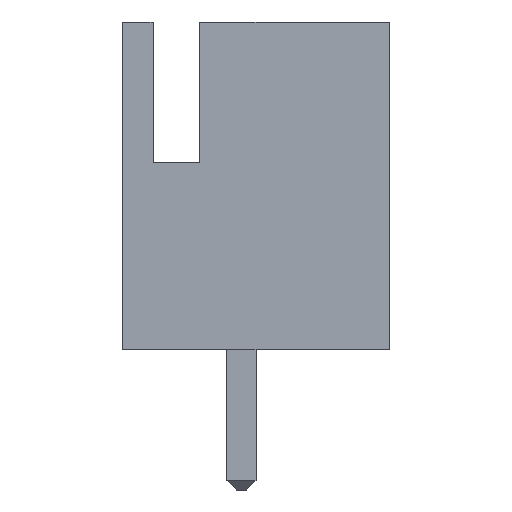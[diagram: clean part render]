
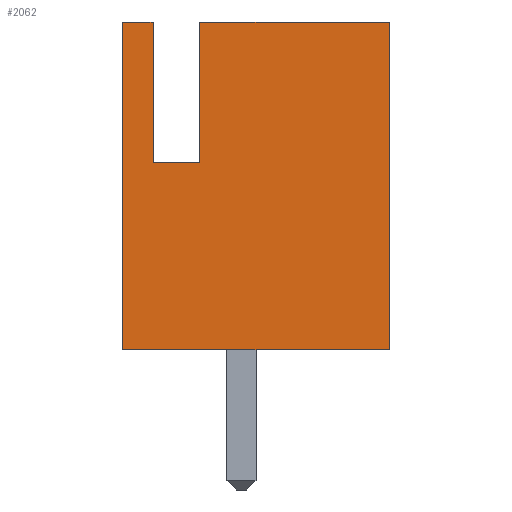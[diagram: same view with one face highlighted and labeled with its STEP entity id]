
A CAD part, left-side view. The second image highlights one B-rep face of the part: STEP entity #2062.
In plain terms, the highlighted planar face has unit normal (-1, 0, 0).
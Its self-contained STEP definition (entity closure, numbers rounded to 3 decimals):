
#124=FACE_OUTER_BOUND('',#241,.T.);
#241=EDGE_LOOP('',(#1563,#1564,#1565,#1566,#1567,#1568,#1569,#1570));
#408=LINE('',#2974,#690);
#419=LINE('',#2996,#701);
#437=LINE('',#3032,#719);
#444=LINE('',#3045,#726);
#445=LINE('',#3048,#727);
#446=LINE('',#3049,#728);
#447=LINE('',#3050,#729);
#448=LINE('',#3051,#730);
#690=VECTOR('',#2430,1.);
#701=VECTOR('',#2445,1.);
#719=VECTOR('',#2471,1.);
#726=VECTOR('',#2480,1.);
#727=VECTOR('',#2483,1.);
#728=VECTOR('',#2484,1.);
#729=VECTOR('',#2485,1.);
#730=VECTOR('',#2486,1.);
#943=VERTEX_POINT('',#2971);
#944=VERTEX_POINT('',#2973);
#952=VERTEX_POINT('',#2993);
#953=VERTEX_POINT('',#2995);
#966=VERTEX_POINT('',#3029);
#967=VERTEX_POINT('',#3031);
#972=VERTEX_POINT('',#3043);
#973=VERTEX_POINT('',#3047);
#1152=EDGE_CURVE('',#944,#943,#408,.T.);
#1163=EDGE_CURVE('',#952,#953,#419,.T.);
#1181=EDGE_CURVE('',#966,#967,#437,.T.);
#1188=EDGE_CURVE('',#972,#966,#444,.T.);
#1189=EDGE_CURVE('',#972,#973,#445,.T.);
#1190=EDGE_CURVE('',#973,#944,#446,.T.);
#1191=EDGE_CURVE('',#953,#943,#447,.T.);
#1192=EDGE_CURVE('',#967,#952,#448,.T.);
#1563=ORIENTED_EDGE('',*,*,#1188,.F.);
#1564=ORIENTED_EDGE('',*,*,#1189,.T.);
#1565=ORIENTED_EDGE('',*,*,#1190,.T.);
#1566=ORIENTED_EDGE('',*,*,#1152,.T.);
#1567=ORIENTED_EDGE('',*,*,#1191,.F.);
#1568=ORIENTED_EDGE('',*,*,#1163,.F.);
#1569=ORIENTED_EDGE('',*,*,#1192,.F.);
#1570=ORIENTED_EDGE('',*,*,#1181,.F.);
#1948=PLANE('',#2193);
#2062=ADVANCED_FACE('',(#124),#1948,.F.);
#2193=AXIS2_PLACEMENT_3D('',#3046,#2481,#2482);
#2430=DIRECTION('',(0.,0.,1.));
#2445=DIRECTION('',(0.,0.,1.));
#2471=DIRECTION('',(0.,0.,-1.));
#2480=DIRECTION('',(0.,-1.,0.));
#2481=DIRECTION('center_axis',(1.,0.,0.));
#2482=DIRECTION('ref_axis',(0.,0.,
-1.));
#2483=DIRECTION('',(0.,0.,-1.));
#2484=DIRECTION('',(0.,1.,0.));
#2485=DIRECTION('',(0.,-1.,0.));
#2486=DIRECTION('',(0.,1.,0.));
#2971=CARTESIAN_POINT('',(-2.52,1.9,7.));
#2973=CARTESIAN_POINT('',(-2.52,1.9,4.));
#2974=CARTESIAN_POINT('',(-2.52,1.9,4.));
#2993=CARTESIAN_POINT('',(-2.52,2.55,0.));
#2995=CARTESIAN_POINT('',(-2.52,2.55,7.));
#2996=CARTESIAN_POINT('',(-2.52,2.55,0.));
#3029=CARTESIAN_POINT('',(-2.52,-3.15,7.));
#3031=CARTESIAN_POINT('',(-2.52,-3.15,0.));
#3032=CARTESIAN_POINT('',(-2.52,-3.15,7.));
#3043=CARTESIAN_POINT('',(-2.52,0.9,7.));
#3045=CARTESIAN_POINT('',(-2.52,0.9,7.));
#3046=CARTESIAN_POINT('Origin',(-2.52,0.025,3.787));
#3047=CARTESIAN_POINT('',(-2.52,0.9,4.));
#3048=CARTESIAN_POINT('',(-2.52,0.9,7.));
#3049=CARTESIAN_POINT('',(-2.52,0.9,4.));
#3050=CARTESIAN_POINT('',(-2.52,2.55,7.));
#3051=CARTESIAN_POINT('',(-2.52,-3.15,0.));
